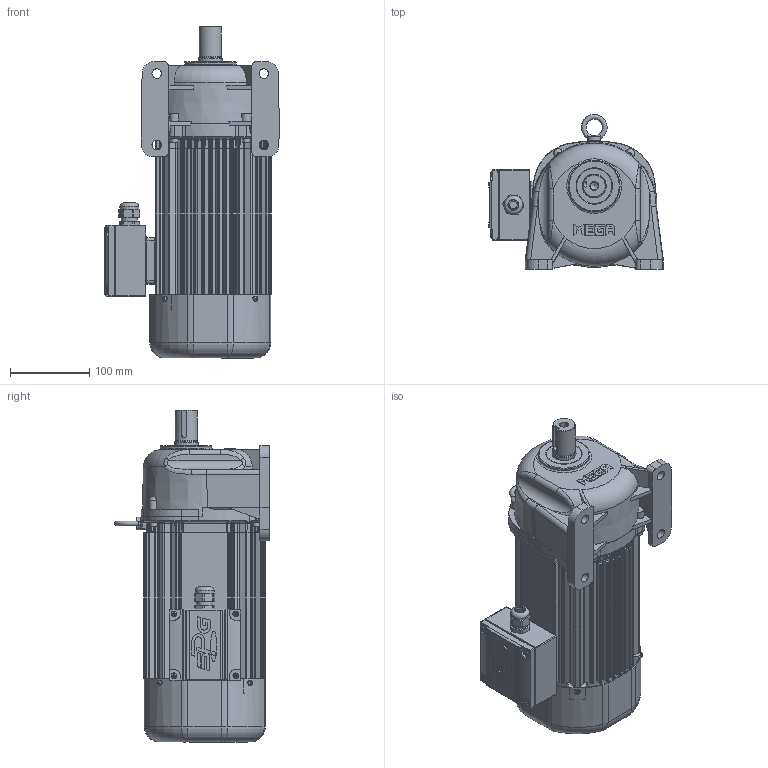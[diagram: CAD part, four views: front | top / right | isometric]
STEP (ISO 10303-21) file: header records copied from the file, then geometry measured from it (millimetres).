
FILE_DESCRIPTION(/* description */ (''),/* implementation_level */ '2;1');
FILE_NAME(/* name */ 'Z:\동력 3D 파일\PML105-(5~30)-PC(D)075[ ]L_(3D).stp',/* time_stamp */ '2021-08-25T08:27:28+09:00',/* author */ ('jaebok'),/* organization */ (''),/* preprocessor_version */ 'ST-DEVELOPER v18.1',/* originating_system */ 'Autodesk Inventor 2022',/* authorisation */ '');
FILE_SCHEMA (('AUTOMOTIVE_DESIGN { 1 0 10303 214 3 1 1 }'));
Products named in the file (1): 부품2
Bounding box: 220 x 195.28 x 418.5 mm (x, y, z)
Volume: 2323151.8 mm3; surface area: 714828.5 mm2
Topology: 1 solids, 31 shells, 3110 faces, 8135 edges, 4948 vertices
Faces by surface type: plane 1110, cylinder 881, bspline 674, torus 247, cone 132, sphere 66
Full cylindrical faces by diameter (mm): 2 x1, 3.25 x1, 3.6 x4, 4 x17, 4.134 x4, 5 x23, 5.5 x4, 6 x5, 7 x14, 8 x11, 8.5 x4, 10 x2, 12 x4, 12.5 x1, 15 x1, 19 x1, 20 x2, 20.6 x1, 21 x2, 23.6 x1, 25 x1, 27.6 x1, 27.96 x1, 28 x1, 30 x2, 32 x1, 35 x2, 36 x1, 37 x1, 45 x1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
Entity records: 123956 total; most frequent: CARTESIAN_POINT 48442, ORIENTED_EDGE 15874, DIRECTION 14155, EDGE_CURVE 7937, AXIS2_PLACEMENT_3D 5534, VERTEX_POINT 4944, EDGE_LOOP 3293, STYLED_ITEM 3111
